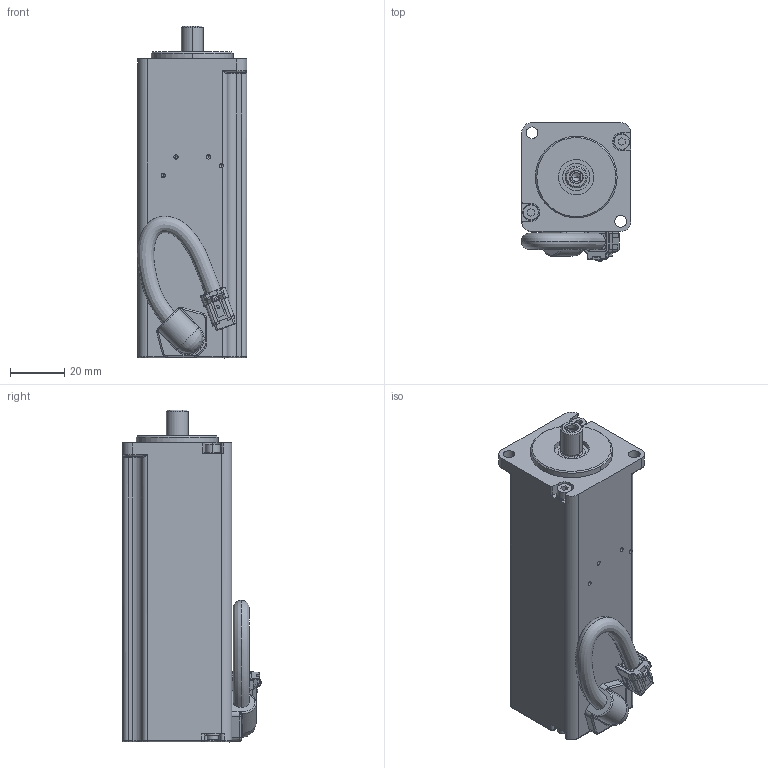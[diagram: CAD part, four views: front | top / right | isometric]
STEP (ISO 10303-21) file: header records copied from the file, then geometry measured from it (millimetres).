
FILE_DESCRIPTION (( 'STEP AP214' ), '1' );
FILE_NAME ('SGM7J-01APK-YR1.STEP', '2021-04-12T14:38:32', ( '' ), ( '' ), 'SwSTEP 2.0', 'SolidWorks 2019', '' );
FILE_SCHEMA (( 'AUTOMOTIVE_DESIGN' ));
Length unit declared in the file: millimetre
Products named in the file (1): SGM7J-01APK-YR1
Bounding box: 40.2 x 50.83 x 122 mm (x, y, z)
Volume: 171249.4 mm3; surface area: 23236.6 mm2
Topology: 1 solids, 2 shells, 542 faces, 1369 edges, 845 vertices
Faces by surface type: plane 301, cylinder 156, bspline 63, cone 22
Entity records: 22347 total; most frequent: CARTESIAN_POINT 9350, ORIENTED_EDGE 2706, DIRECTION 2482, EDGE_CURVE 1353, VECTOR 862, LINE 862, VERTEX_POINT 843, AXIS2_PLACEMENT_3D 810
